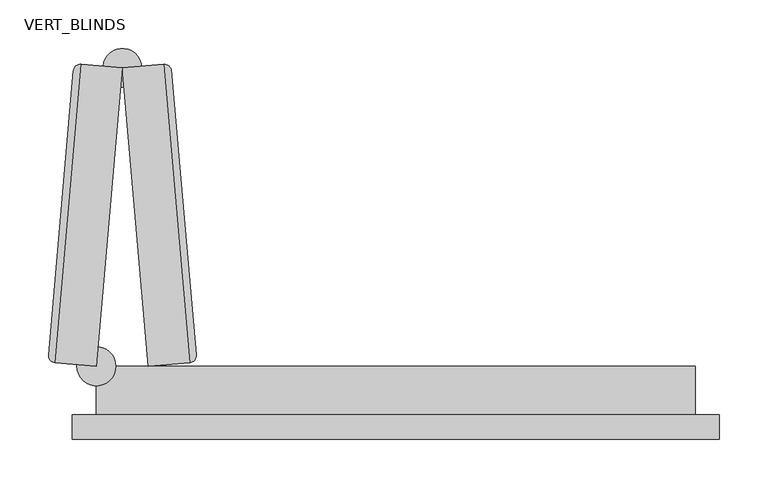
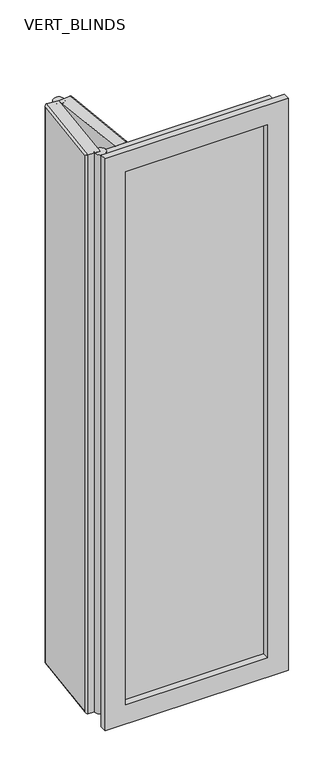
"""IFC4 building model written with IfcOpenShell, lengths in millimetres: plate geometry, CURTAIN PANEL VODA STYLE BIFOLDING : VERT_BLINDS."""

from ifc_helpers import new_model, si_unit, point, frame, frame_2d, origin, place, context, project, spatial, polyline, circle_curve, ellipse_curve, trimmed, segment, composite_curve, outline, extrude, faceted_brep, source, transform, mapped, element, save
from ifc_brep_helpers import plane_surface, cylinder_surface, advanced_brep


def vert_blinds_bae50e72(model_context):
    return source(origin(), model_context, "Body", "SolidModel", [
        advanced_brep(
        [(-308.3333333, 50.0, 2175.0), (-281.4603127, 357.1600319, 2175.0), (-323.7985873, 360.864151, 2175.0), (-350.671608, 53.7041191, 2175.0), (-281.4603127, 357.1600319, 25.0), (-308.3333333, 50.0, 25.0), (-350.671608, 53.7041191, 25.0), (-323.7985873, 360.864151, 25.0), (-357.4894002, 61.8292474, 32.5), (-357.4894002, 61.8292474, 2167.5), (-331.9237156, 354.0463588, 2167.5), (-331.9237156, 354.0463588, 32.5)],
        [
            (0, 1),
            (1, 2),
            (2, 3),
            (3, 0),
            (4, 5),
            (5, 6),
            (6, 7),
            (7, 4),
            (1, 4),
            (7, 2),
            (8, 9),
            (9, 10),
            (10, 11),
            (11, 8),
            (5, 0),
            (3, 6),
            (8, 6, ellipse_curve(frame((-350.0179399, 61.1755793, 32.5), z_axis=(-0.06162841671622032, -0.7044160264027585, 0.7071067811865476), x_axis=(-0.061628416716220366, -0.7044160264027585, -0.7071067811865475)), 10.6066017, 7.5)),
            (3, 9, ellipse_curve(frame((-350.0179399, 61.1755793, 2167.5), z_axis=(-0.061628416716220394, -0.7044160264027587, -0.7071067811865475), x_axis=(0.061628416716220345, 0.7044160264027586, -0.7071067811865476)), 10.6066017, 7.5)),
            (11, 7, ellipse_curve(frame((-324.4522554, 353.3926907, 32.5), z_axis=(-0.06162841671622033, -0.7044160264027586, -0.7071067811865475), x_axis=(0.06162841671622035, 0.7044160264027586, -0.7071067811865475)), 10.6066017, 7.5)),
            (10, 2, ellipse_curve(frame((-324.4522554, 353.3926907, 2167.5), z_axis=(0.06162841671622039, 0.7044160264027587, -0.7071067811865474), x_axis=(0.06162841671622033, 0.7044160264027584, 0.7071067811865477)), 10.6066017, 7.5)),
        ],
        [
            plane_surface(frame((-331.2700476, 361.517819, 2175.0), z_axis=(0.0, 0.0, 1.0), x_axis=(-0.9961946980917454, 0.0871557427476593, 0.0))),
            plane_surface(frame((-331.2700476, 361.517819, 25.0), z_axis=(0.0, 0.0, -1.0), x_axis=(0.9961946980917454, -0.0871557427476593, 0.0))),
            plane_surface(frame((-281.4603127, 357.1600319, 2175.0), z_axis=(0.0871557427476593, 0.9961946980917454, 0.0), x_axis=(0.0, 0.0, -1.0))),
            plane_surface(frame((-331.2700476, 361.517819, 2175.0), z_axis=(-0.9961946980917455, 0.08715574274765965, 0.0), x_axis=(0.0, 0.0, -1.0))),
            plane_surface(frame((-358.1430682, 54.3577871, 2175.0), z_axis=(-0.08715574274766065, -0.9961946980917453, 0.0), x_axis=(0.0, 0.0, -1.0))),
            plane_surface(frame((-308.3333333, 50.0, 2175.0), z_axis=(0.9961946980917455, -0.08715574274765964, 0.0), x_axis=(0.0, 0.0, -1.0))),
            cylinder_surface(frame((-350.0179399, 61.1755793, 2175.0), z_axis=(0.0, 0.0, -1.0000000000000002), x_axis=(0.9961946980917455, -0.08715574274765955, 0.0)), 7.5),
            cylinder_surface(frame((-350.671608, 53.7041191, 32.5), z_axis=(0.08715574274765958, 0.9961946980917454, 0.0), x_axis=(0.9961946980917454, -0.08715574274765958, 0.0)), 7.5),
            cylinder_surface(frame((-324.4522554, 353.3926907, 25.0), z_axis=(0.0, 0.0, 1.0000000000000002), x_axis=(0.9961946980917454, -0.08715574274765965, 0.0)), 7.5),
            cylinder_surface(frame((-323.7985873, 360.864151, 2167.5), z_axis=(-0.08715574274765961, -0.9961946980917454, 0.0), x_axis=(0.9961946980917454, -0.08715574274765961, 0.0)), 7.5),
        ],
        [
            (0, [[1, 2, 3, 4]]),
            (1, [[5, 6, 7, 8]]),
            (2, [[9, -8, 10, -2]]),
            (3, [[11, 12, 13, 14]]),
            (4, [[15, -4, 16, -6]]),
            (5, [[-1, -15, -5, -9]]),
            (6, [[17, -16, 18, -11]]),
            (7, [[-17, -14, 19, -7]]),
            (8, [[-19, -13, 20, -10]]),
            (9, [[-18, -3, -20, -12]]),
        ],
    ),
        advanced_brep(
        [(-281.4603127, 357.1600319, 2175.0), (-254.587292, 50.0, 2175.0), (-212.2490173, 53.7041191, 2175.0), (-239.122038, 360.864151, 2175.0), (-254.587292, 50.0, 25.0), (-281.4603127, 357.1600319, 25.0), (-239.122038, 360.864151, 25.0), (-212.2490173, 53.7041191, 25.0), (-230.9969097, 354.0463588, 32.5), (-230.9969097, 354.0463588, 2167.5), (-205.4312251, 61.8292474, 2167.5), (-205.4312251, 61.8292474, 32.5)],
        [
            (0, 1),
            (1, 2),
            (2, 3),
            (3, 0),
            (4, 5),
            (5, 6),
            (6, 7),
            (7, 4),
            (1, 4),
            (7, 2),
            (8, 9),
            (9, 10),
            (10, 11),
            (11, 8),
            (5, 0),
            (3, 6),
            (8, 6, ellipse_curve(frame((-238.4683699, 353.3926907, 32.5), z_axis=(-0.06162841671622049, 0.7044160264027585, 0.7071067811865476), x_axis=(-0.06162841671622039, 0.7044160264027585, -0.7071067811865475)), 10.6066017, 7.5)),
            (3, 9, ellipse_curve(frame((-238.4683699, 353.3926907, 2167.5), z_axis=(-0.061628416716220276, 0.7044160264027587, -0.7071067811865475), x_axis=(0.06162841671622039, -0.7044160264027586, -0.7071067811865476)), 10.6066017, 7.5)),
            (11, 7, ellipse_curve(frame((-212.9026854, 61.1755793, 32.5), z_axis=(-0.061628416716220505, 0.7044160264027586, -0.7071067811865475), x_axis=(0.06162841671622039, -0.7044160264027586, -0.7071067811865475)), 10.6066017, 7.5)),
            (10, 2, ellipse_curve(frame((-212.9026854, 61.1755793, 2167.5), z_axis=(0.061628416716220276, -0.7044160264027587, -0.7071067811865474), x_axis=(0.061628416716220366, -0.7044160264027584, 0.7071067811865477)), 10.6066017, 7.5)),
        ],
        [
            plane_surface(frame((-204.7775571, 54.3577871, 2175.0), z_axis=(0.0, 0.0, 1.0), x_axis=(0.9961946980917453, 0.08715574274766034, 0.0))),
            plane_surface(frame((-204.7775571, 54.3577871, 25.0), z_axis=(0.0, 0.0, -1.0), x_axis=(-0.9961946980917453, -0.08715574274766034, 0.0))),
            plane_surface(frame((-254.587292, 50.0, 2175.0), z_axis=(0.08715574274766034, -0.9961946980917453, 0.0), x_axis=(0.0, 0.0, -1.0))),
            plane_surface(frame((-204.7775571, 54.3577871, 2175.0), z_axis=(0.9961946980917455, 0.08715574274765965, 0.0), x_axis=(0.0, 0.0, -1.0))),
            plane_surface(frame((-231.6505777, 361.517819, 2175.0), z_axis=(-0.08715574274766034, 0.9961946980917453, 0.0), x_axis=(0.0, 0.0, -1.0))),
            plane_surface(frame((-281.4603127, 357.1600319, 2175.0), z_axis=(-0.9961946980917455, -0.08715574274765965, 0.0), x_axis=(0.0, 0.0, -1.0))),
            cylinder_surface(frame((-238.4683699, 353.3926907, 2175.0), z_axis=(0.0, 0.0, -1.0000000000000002), x_axis=(-0.9961946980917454, -0.08715574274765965, 0.0)), 7.5),
            cylinder_surface(frame((-239.122038, 360.864151, 32.5), z_axis=(0.08715574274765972, -0.9961946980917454, 0.0), x_axis=(-0.9961946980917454, -0.08715574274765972, 0.0)), 7.5),
            cylinder_surface(frame((-212.9026854, 61.1755793, 25.0), z_axis=(0.0, 0.0, 1.0000000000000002), x_axis=(-0.9961946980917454, -0.08715574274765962, 0.0)), 7.5),
            cylinder_surface(frame((-212.2490173, 53.7041191, 2167.5), z_axis=(-0.08715574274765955, 0.9961946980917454, 0.0), x_axis=(-0.9961946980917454, -0.08715574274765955, 0.0)), 7.5),
        ],
        [
            (0, [[1, 2, 3, 4]]),
            (1, [[5, 6, 7, 8]]),
            (2, [[9, -8, 10, -2]]),
            (3, [[11, 12, 13, 14]]),
            (4, [[15, -4, 16, -6]]),
            (5, [[-1, -15, -5, -9]]),
            (6, [[17, -16, 18, -11]]),
            (7, [[-17, -14, 19, -7]]),
            (8, [[-19, -13, 20, -10]]),
            (9, [[-18, -3, -20, -12]]),
        ],
    ),
        extrude(outline(composite_curve([segment(trimmed(circle_curve(frame_2d((-308.3333333, 50.0)), 20.0), [point((-328.3333333, 50.0))], [point((-288.3333333, 50.0))], False, "CARTESIAN"), True, "CONTINUOUS"), segment(trimmed(circle_curve(frame_2d((-308.3333333, 50.0)), 20.0), [point((-288.3333333, 50.0))], [point((-328.3333333, 50.0))], False, "CARTESIAN"), True, "CONTINUOUS")], self_intersect=False)), frame((0.0, 0.0, 25.0), z_axis=(0.0, 0.0, 1.0), x_axis=(1.0, 0.0, 0.0)), (0.0, 0.0, 1.0), 2150.0),
        extrude(outline(composite_curve([segment(trimmed(circle_curve(frame_2d((-281.4603127, 357.1600319)), 20.0), [point((-283.2034275, 337.2361379))], [point((-279.7171978, 377.0839259))], False, "CARTESIAN"), True, "CONTINUOUS"), segment(trimmed(circle_curve(frame_2d((-281.4603127, 357.1600319)), 20.0), [point((-279.7171978, 377.0839259))], [point((-283.2034275, 337.2361379))], False, "CARTESIAN"), True, "CONTINUOUS")], self_intersect=False)), frame((0.0, 0.0, 25.0), z_axis=(0.0, 0.0, 1.0), x_axis=(1.0, 0.0, 0.0)), (0.0, 0.0, 1.0), 2150.0),
        extrude(outline(polyline([(-258.3333333, 24.0), (258.3333333, 24.0), (258.3333333, 0.0), (-258.3333333, 0.0), (-258.3333333, 24.0)])), frame((0.0, 0.0, 75.0), z_axis=(0.0, 0.0, 1.0), x_axis=(1.0, 0.0, 0.0)), (0.0, 0.0, 1.0), 2050.0),
        faceted_brep([(-258.3333333, 50.0, 2125.0), (-258.3333333, -25.0, 2125.0), (-258.3333333, -25.0, 75.0), (-258.3333333, 50.0, 75.0), (-333.3333333, -25.0, 2200.0), (-333.3333333, 0.0, 2200.0), (-333.3333333, 0.0, 0.0), (-333.3333333, -25.0, 0.0), (-308.3333333, 0.0, 2175.0), (-308.3333333, 50.0, 2175.0), (-308.3333333, 50.0, 25.0), (-308.3333333, 0.0, 25.0), (258.3333333, -25.0, 75.0), (258.3333333, 50.0, 75.0), (333.3333333, 0.0, 0.0), (333.3333333, -25.0, 0.0), (308.3333333, 50.0, 25.0), (308.3333333, 0.0, 25.0), (258.3333333, -25.0, 2125.0), (258.3333333, 50.0, 2125.0), (333.3333333, 0.0, 2200.0), (333.3333333, -25.0, 2200.0), (308.3333333, 50.0, 2175.0), (308.3333333, 0.0, 2175.0)], [[[0, 1, 2, 3]], [[4, 5, 6, 7]], [[8, 9, 10, 11]], [[3, 2, 12, 13]], [[7, 6, 14, 15]], [[11, 10, 16, 17]], [[13, 12, 18, 19]], [[15, 14, 20, 21]], [[17, 16, 22, 23]], [[9, 22, 16, 10], [3, 13, 19, 0]], [[19, 18, 1, 0]], [[7, 15, 21, 4], [1, 18, 12, 2]], [[21, 20, 5, 4]], [[5, 20, 14, 6], [11, 17, 23, 8]], [[23, 22, 9, 8]]]),
    ])


if __name__ == "__main__":
    model = new_model("IFC4")
    model_context = context("Model", 3, world=origin())
    ifc_project = project(units=[si_unit("LENGTHUNIT", "METRE", prefix="MILLI")], contexts=[model_context])
    site = spatial("IfcSite", under=ifc_project)
    building = spatial("IfcBuilding", under=site)
    placement = place(None, origin())
    vert_blinds_shape = vert_blinds_bae50e72(model_context)
    element("IfcPlate", 1, ObjectType="CURTAIN PANEL VODA STYLE BIFOLDING : VERT_BLINDS", at=placement, inside=building, context=model_context, shape_type="MappedRepresentation", body=[
        mapped(vert_blinds_shape, transform((0.0, 0.0, 0.0), x_axis=(1.0, 0.0, 0.0), y_axis=(0.0, 1.0, 0.0), z_axis=(0.0, 0.0, 1.0))),
    ])
    save(model, "model.ifc")
